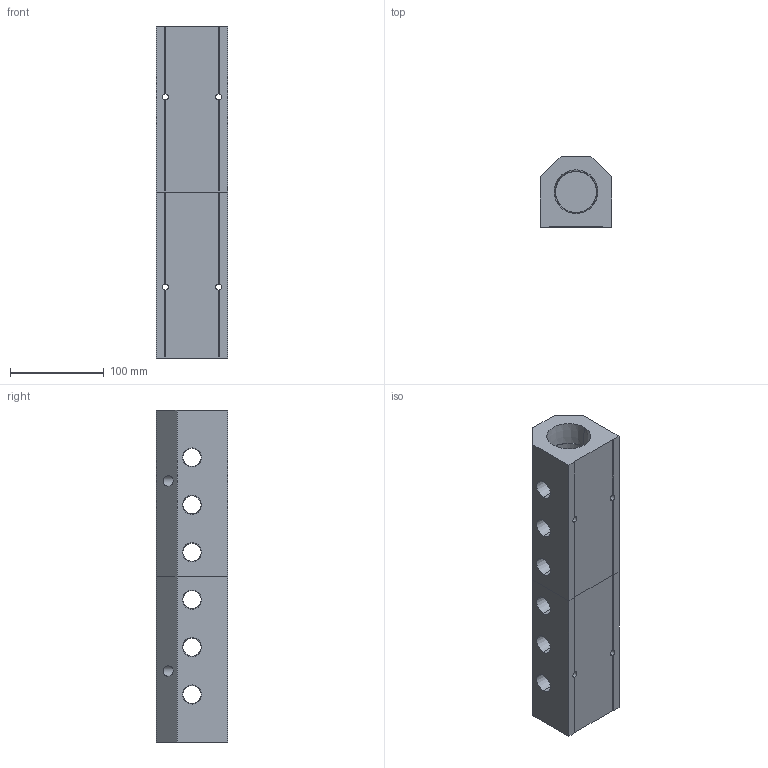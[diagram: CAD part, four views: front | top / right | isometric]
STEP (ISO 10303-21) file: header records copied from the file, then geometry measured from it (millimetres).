
FILE_DESCRIPTION (( 'STEP AP214' ), '1' );
FILE_NAME ('ALM6ACE-N8N24-355RB.step', '2022-02-07T09:39:41', ( '' ), ( '' ), 'SwSTEP 2.0', 'SolidWorks 2020', '' );
FILE_SCHEMA (( 'AUTOMOTIVE_DESIGN' ));
Length unit declared in the file: millimetre
Products named in the file (1): ALM6ACE-N8N24-355RB
Bounding box: 76.2 x 76.2 x 355 mm (x, y, z)
Volume: 1229208.1 mm3; surface area: 182561.8 mm2
Topology: 2 solids, 2 shells, 387 faces, 1039 edges, 682 vertices
Faces by surface type: plane 240, bspline 87, cone 40, cylinder 20
Entity records: 22496 total; most frequent: CARTESIAN_POINT 9678, ORIENTED_EDGE 2078, DIRECTION 1491, EDGE_CURVE 1039, VECTOR 737, LINE 737, VERTEX_POINT 682, EDGE_LOOP 457
